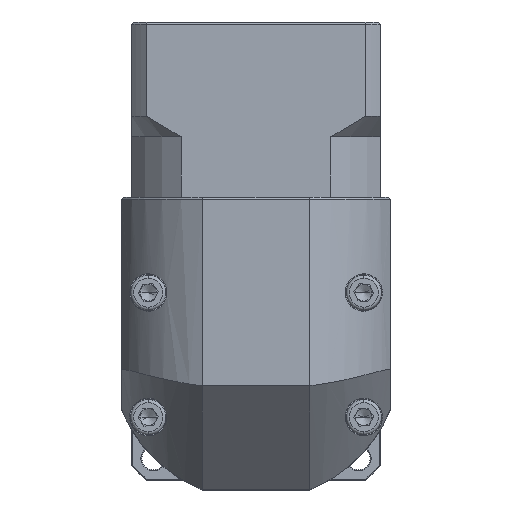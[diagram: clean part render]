
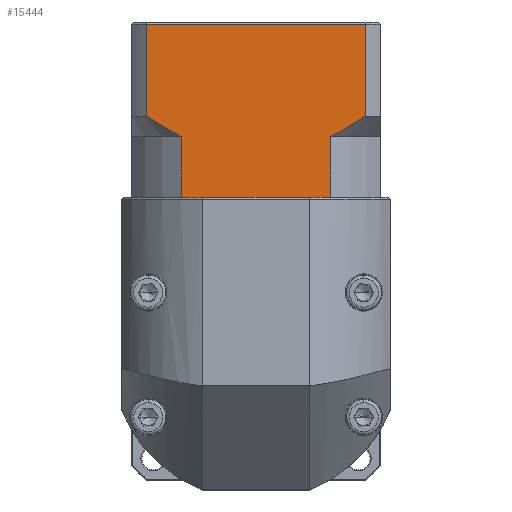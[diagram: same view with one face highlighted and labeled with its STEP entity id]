
A CAD part, top view. The second image highlights one B-rep face of the part: STEP entity #15444.
In plain terms, the highlighted planar face has unit normal (0, 0, 1).
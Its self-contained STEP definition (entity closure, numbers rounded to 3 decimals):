
#83 = VERTEX_POINT ( 'NONE', #17565 ) ;
#830 = VERTEX_POINT ( 'NONE', #78865 ) ;
#3974 = CARTESIAN_POINT ( 'NONE',  ( -61.48, 50.107, 38.39 ) ) ;
#5739 = CARTESIAN_POINT ( 'NONE',  ( -22.543, 51.657, 38.39 ) ) ;
#7378 = CARTESIAN_POINT ( 'NONE',  ( -73.453, 77.307, 38.39 ) ) ;
#8051 = VERTEX_POINT ( 'NONE', #103979 ) ;
#10804 = VECTOR ( 'NONE', #94257, 1000. ) ;
#13569 = DIRECTION ( 'NONE',  ( 0., 1., 0. ) ) ;
#14592 = CARTESIAN_POINT ( 'NONE',  ( -26.416, 35.607, 38.39 ) ) ;
#15444 = ADVANCED_FACE ( 'NONE', ( #37344 ), #19351, .F. ) ;
#15450 = CARTESIAN_POINT ( 'NONE',  ( -73.453, 35.607, 38.39 ) ) ;
#17082 = ORIENTED_EDGE ( 'NONE', *, *, #96980, .T. ) ;
#17565 = CARTESIAN_POINT ( 'NONE',  ( -61.48, 50.107, 38.39 ) ) ;
#17600 = CARTESIAN_POINT ( 'NONE',  ( -16.995, 77.307, 38.39 ) ) ;
#19351 = PLANE ( 'NONE',  #36271 ) ;
#20036 = CARTESIAN_POINT ( 'NONE',  ( -73.453, 77.807, 38.39 ) ) ;
#20070 = VERTEX_POINT ( 'NONE', #104528 ) ;
#21346 = EDGE_LOOP ( 'NONE', ( #105580, #89462, #53300, #98253, #51254, #74702, #81647, #17082, #94449, #90879 ) ) ;
#21638 = LINE ( 'NONE', #53887, #40844 ) ;
#24370 = DIRECTION ( 'NONE',  ( 1., 0., 0. ) ) ;
#27659 = DIRECTION ( 'NONE',  ( 0., -1., 0. ) ) ;
#30720 = CARTESIAN_POINT ( 'NONE',  ( -19.738, 53.331, 38.39 ) ) ;
#36271 = AXIS2_PLACEMENT_3D ( 'NONE', #20036, #60755, #75831 ) ;
#36298 = VECTOR ( 'NONE', #105622, 1000. ) ;
#36422 = CARTESIAN_POINT ( 'NONE',  ( -69.91, 55.107, 38.39 ) ) ;
#37344 = FACE_OUTER_BOUND ( 'NONE', #21346, .T. ) ;
#38031 = LINE ( 'NONE', #51352, #57198 ) ;
#38932 = CARTESIAN_POINT ( 'NONE',  ( -16.995, 55.107, 38.39 ) ) ;
#40844 = VECTOR ( 'NONE', #94041, 1000. ) ;
#43576 = CARTESIAN_POINT ( 'NONE',  ( -67.172, 53.334, 38.39 ) ) ;
#44621 = CARTESIAN_POINT ( 'NONE',  ( -68.55, 54.207, 38.39 ) ) ;
#44943 = CARTESIAN_POINT ( 'NONE',  ( -25.425, 50.107, 38.39 ) ) ;
#45110 = EDGE_CURVE ( 'NONE', #76993, #8051, #104349, .T. ) ;
#45575 = VECTOR ( 'NONE', #63279, 1000. ) ;
#46770 = CARTESIAN_POINT ( 'NONE',  ( -23.968, 50.857, 38.39 ) ) ;
#48474 = LINE ( 'NONE', #56546, #53623 ) ;
#51254 = ORIENTED_EDGE ( 'NONE', *, *, #78752, .F. ) ;
#51352 = CARTESIAN_POINT ( 'NONE',  ( -16.995, 50.107, 38.39 ) ) ;
#51926 = LINE ( 'NONE', #15450, #45575 ) ;
#52139 = CARTESIAN_POINT ( 'NONE',  ( -64.364, 51.658, 38.39 ) ) ;
#53233 = CARTESIAN_POINT ( 'NONE',  ( -25.425, 50.107, 38.39 ) ) ;
#53300 = ORIENTED_EDGE ( 'NONE', *, *, #97884, .F. ) ;
#53623 = VECTOR ( 'NONE', #24370, 1000. ) ;
#53887 = CARTESIAN_POINT ( 'NONE',  ( -73.453, 35.607, 38.39 ) ) ;
#56546 = CARTESIAN_POINT ( 'NONE',  ( -73.453, 35.607, 38.39 ) ) ;
#57198 = VECTOR ( 'NONE', #84349, 1000. ) ;
#58499 = VERTEX_POINT ( 'NONE', #63740 ) ;
#60755 = DIRECTION ( 'NONE',  ( 0., 0., -1. ) ) ;
#62268 = LINE ( 'NONE', #79697, #66094 ) ;
#63279 = DIRECTION ( 'NONE',  ( 1., 0., 0. ) ) ;
#63670 = B_SPLINE_CURVE_WITH_KNOTS ( 'NONE', 3,
 ( #36422, #44621, #43576, #52139, #101889, #3974 ),
 .UNSPECIFIED., .F., .F.,
 ( 4, 2, 4 ),
 ( 0.052, 0.057, 0.062 ),
 .UNSPECIFIED. ) ;
#63740 = CARTESIAN_POINT ( 'NONE',  ( -61.48, 35.607, 38.39 ) ) ;
#64616 = EDGE_CURVE ( 'NONE', #92045, #20070, #75935, .T. ) ;
#66094 = VECTOR ( 'NONE', #13569, 1000. ) ;
#69750 = EDGE_CURVE ( 'NONE', #76993, #96311, #102787, .T. ) ;
#70136 = CARTESIAN_POINT ( 'NONE',  ( -25.425, 35.607, 38.39 ) ) ;
#74702 = ORIENTED_EDGE ( 'NONE', *, *, #88811, .T. ) ;
#75831 = DIRECTION ( 'NONE',  ( 0., 1., 0. ) ) ;
#75935 = LINE ( 'NONE', #7378, #36298 ) ;
#76993 = VERTEX_POINT ( 'NONE', #44943 ) ;
#78752 = EDGE_CURVE ( 'NONE', #58499, #83, #62268, .T. ) ;
#78865 = CARTESIAN_POINT ( 'NONE',  ( -69.91, 55.107, 38.39 ) ) ;
#79697 = CARTESIAN_POINT ( 'NONE',  ( -61.48, 50.107, 38.39 ) ) ;
#79752 = CARTESIAN_POINT ( 'NONE',  ( -18.358, 54.205, 38.39 ) ) ;
#81647 = ORIENTED_EDGE ( 'NONE', *, *, #104458, .T. ) ;
#83466 = EDGE_CURVE ( 'NONE', #830, #83, #63670, .T. ) ;
#84349 = DIRECTION ( 'NONE',  ( 0., -1., 0. ) ) ;
#86057 = CARTESIAN_POINT ( 'NONE',  ( -69.91, 50.107, 38.39 ) ) ;
#88811 = EDGE_CURVE ( 'NONE', #58499, #102571, #48474, .T. ) ;
#89303 = EDGE_CURVE ( 'NONE', #92045, #8051, #38031, .T. ) ;
#89462 = ORIENTED_EDGE ( 'NONE', *, *, #64616, .T. ) ;
#90879 = ORIENTED_EDGE ( 'NONE', *, *, #45110, .T. ) ;
#91385 = VECTOR ( 'NONE', #27659, 1000. ) ;
#92045 = VERTEX_POINT ( 'NONE', #17600 ) ;
#92487 = CARTESIAN_POINT ( 'NONE',  ( -25.425, 50.107, 38.39 ) ) ;
#92769 = VERTEX_POINT ( 'NONE', #14592 ) ;
#94041 = DIRECTION ( 'NONE',  ( 1., 0., 0. ) ) ;
#94257 = DIRECTION ( 'NONE',  ( 0., 1., 0. ) ) ;
#94449 = ORIENTED_EDGE ( 'NONE', *, *, #69750, .F. ) ;
#96311 = VERTEX_POINT ( 'NONE', #70136 ) ;
#96740 = CARTESIAN_POINT ( 'NONE',  ( -60.489, 35.607, 38.39 ) ) ;
#96980 = EDGE_CURVE ( 'NONE', #92769, #96311, #51926, .T. ) ;
#97884 = EDGE_CURVE ( 'NONE', #830, #20070, #102883, .T. ) ;
#98253 = ORIENTED_EDGE ( 'NONE', *, *, #83466, .T. ) ;
#101889 = CARTESIAN_POINT ( 'NONE',  ( -62.933, 50.854, 38.39 ) ) ;
#102571 = VERTEX_POINT ( 'NONE', #96740 ) ;
#102787 = LINE ( 'NONE', #92487, #91385 ) ;
#102883 = LINE ( 'NONE', #86057, #10804 ) ;
#103979 = CARTESIAN_POINT ( 'NONE',  ( -16.995, 55.107, 38.39 ) ) ;
#104349 = B_SPLINE_CURVE_WITH_KNOTS ( 'NONE', 3,
 ( #53233, #46770, #5739, #30720, #79752, #38932 ),
 .UNSPECIFIED., .F., .F.,
 ( 4, 2, 4 ),
 ( 0.1, 0.104, 0.109 ),
 .UNSPECIFIED. ) ;
#104458 = EDGE_CURVE ( 'NONE', #102571, #92769, #21638, .T. ) ;
#104528 = CARTESIAN_POINT ( 'NONE',  ( -69.91, 77.307, 38.39 ) ) ;
#105580 = ORIENTED_EDGE ( 'NONE', *, *, #89303, .F. ) ;
#105622 = DIRECTION ( 'NONE',  ( -1., 0., 0. ) ) ;
